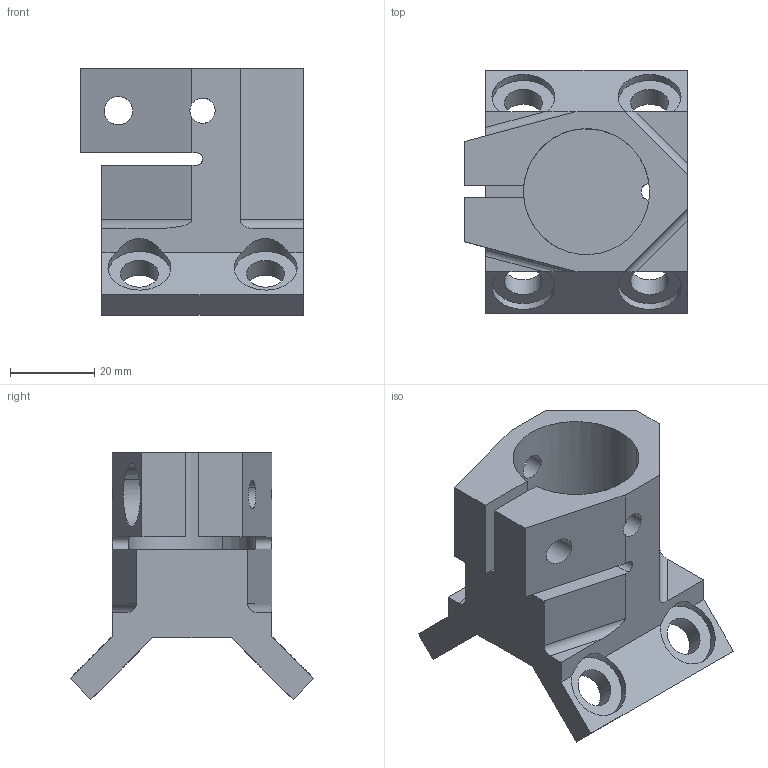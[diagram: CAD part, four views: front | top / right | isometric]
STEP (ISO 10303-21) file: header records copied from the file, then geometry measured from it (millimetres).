
FILE_DESCRIPTION(('CATIA V5 STEP Exchange'),'2;1');
FILE_NAME('E:\Euro Gripper 3D\EGT120_ANBINDUNG_ACHTKANT_SW50.stp','2012-09-17T02:22:54+00:00',('none'),('none'),'CATIA Version 5 Release 21 GA (IN-10)','CATIA V5 STEP AP203','none');
FILE_SCHEMA(('CONFIG_CONTROL_DESIGN'));
Length unit declared in the file: millimetre
Products named in the file (1): EGT120_ANBINDUNG_ACHTKANT_SW50
Bounding box: 53 x 57.98 x 58.69 mm (x, y, z)
Volume: 47336.3 mm3; surface area: 19619.8 mm2
Topology: 1 solids, 1 shells, 78 faces, 235 edges, 155 vertices
Faces by surface type: plane 38, cylinder 38, cone 2
Entity records: 2847 total; most frequent: CARTESIAN_POINT 839, ORIENTED_EDGE 466, DIRECTION 303, EDGE_CURVE 233, VERTEX_POINT 155, VECTOR 136, LINE 136, AXIS2_PLACEMENT_3D 119
